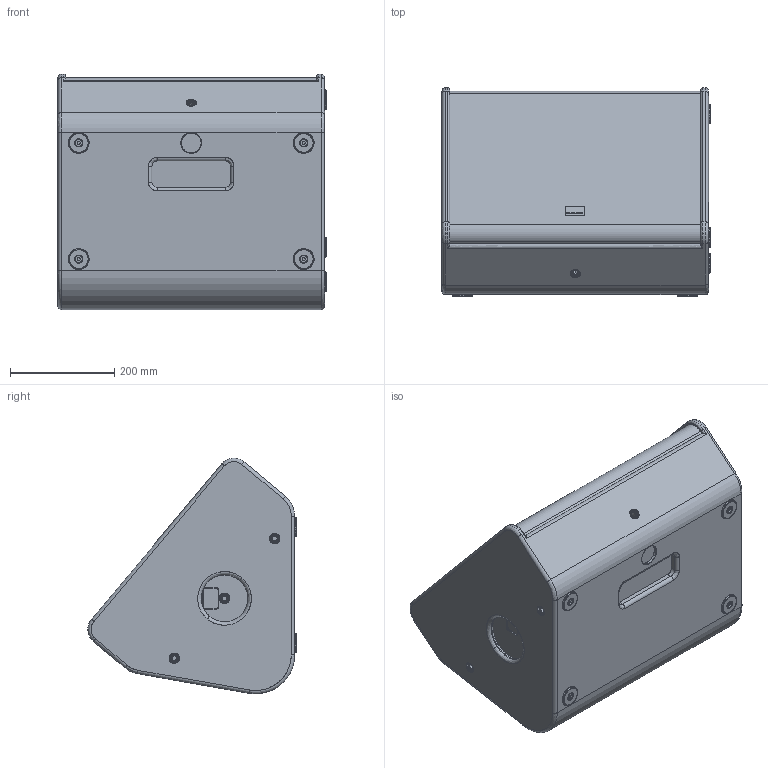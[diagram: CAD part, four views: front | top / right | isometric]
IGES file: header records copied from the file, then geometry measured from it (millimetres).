
Start section: SolidWorks IGES file using analytic representation for surfaces
Global section: file name: C:\Dokumente und Einstellungen\PC_Fabian\Desktop\M-Serie\Seeburg_M5.IGS; native system: SolidWorks 2009; preprocessor: SolidWorks 2009; author: PC_Fabian; date: 121017.125922; units: millimetre
Bounding box: 515 x 400.26 x 452.73 mm (x, y, z)
Surface area: 2071926.7 mm2 (no closed solid volume)
Topology: 0 solids, 0 shells, 748 faces, 11330 edges, 11330 vertices
Faces by surface type: revolution 448, bspline 300
